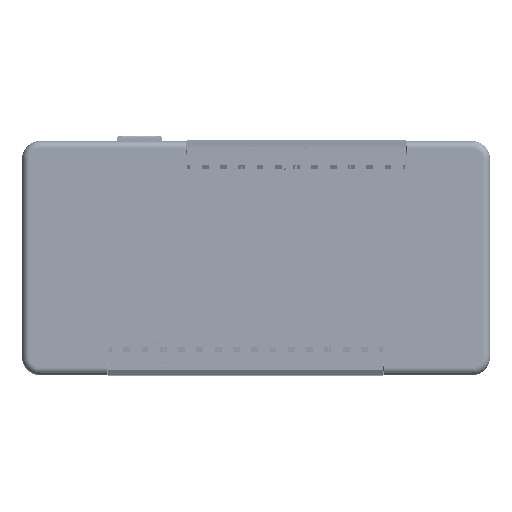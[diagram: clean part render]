
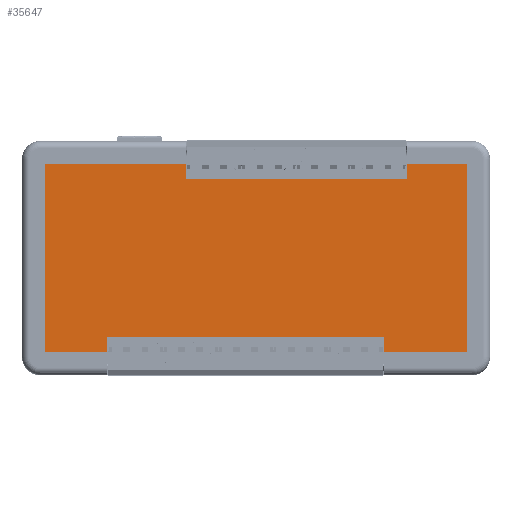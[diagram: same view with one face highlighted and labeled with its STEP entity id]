
A CAD part, top view. The second image highlights one B-rep face of the part: STEP entity #35647.
In plain terms, the highlighted planar face has unit normal (0, 0, 1) as drawn and (0, 0, -1) by its records, which use the part's own axes.
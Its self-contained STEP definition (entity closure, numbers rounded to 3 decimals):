
#133 = LINE ( 'NONE', #37919, #54100 ) ;
#535 = EDGE_CURVE ( 'NONE', #69994, #4568, #133, .T. ) ;
#1323 = ORIENTED_EDGE ( 'NONE', *, *, #103320, .T. ) ;
#1808 = LINE ( 'NONE', #28695, #87843 ) ;
#3580 = VERTEX_POINT ( 'NONE', #65130 ) ;
#4264 = EDGE_CURVE ( 'NONE', #85814, #3580, #25804, .T. ) ;
#4568 = VERTEX_POINT ( 'NONE', #14843 ) ;
#11105 = CARTESIAN_POINT ( 'NONE',  ( -19.5, -26.125, 1. ) ) ;
#12119 = CARTESIAN_POINT ( 'NONE',  ( -41.5, 0., 1. ) ) ;
#12267 = VERTEX_POINT ( 'NONE', #122172 ) ;
#14843 = CARTESIAN_POINT ( 'NONE',  ( 35.5, 22., 1. ) ) ;
#15398 = EDGE_CURVE ( 'NONE', #111932, #85814, #34248, .T. ) ;
#15662 = ORIENTED_EDGE ( 'NONE', *, *, #132121, .F. ) ;
#17731 = ORIENTED_EDGE ( 'NONE', *, *, #126778, .T. ) ;
#19176 = CARTESIAN_POINT ( 'NONE',  ( -19.5, -22., 1. ) ) ;
#20729 = PLANE ( 'NONE',  #114505 ) ;
#25804 = LINE ( 'NONE', #38117, #79854 ) ;
#26249 = ORIENTED_EDGE ( 'NONE', *, *, #113207, .T. ) ;
#28695 = CARTESIAN_POINT ( 'NONE',  ( 42., 0., 1. ) ) ;
#34248 = LINE ( 'NONE', #61038, #120259 ) ;
#34800 = VERTEX_POINT ( 'NONE', #107540 ) ;
#35647 = ADVANCED_FACE ( 'NONE', ( #82818 ), #20729, .F. ) ;
#37919 = CARTESIAN_POINT ( 'NONE',  ( 0., 22., 1. ) ) ;
#38009 = DIRECTION ( 'NONE',  ( 0., -1., 0. ) ) ;
#38117 = CARTESIAN_POINT ( 'NONE',  ( -58.625, 26.125, 1. ) ) ;
#39468 = ORIENTED_EDGE ( 'NONE', *, *, #135049, .T. ) ;
#40555 = CARTESIAN_POINT ( 'NONE',  ( 35.5, 0., 1. ) ) ;
#40724 = ORIENTED_EDGE ( 'NONE', *, *, #126977, .T. ) ;
#45550 = EDGE_CURVE ( 'NONE', #118349, #111932, #121833, .T. ) ;
#47700 = CARTESIAN_POINT ( 'NONE',  ( 0., -22., 1. ) ) ;
#49561 = VECTOR ( 'NONE', #38009, 1000. ) ;
#51440 = DIRECTION ( 'NONE',  ( 0., 1., 0. ) ) ;
#53324 = DIRECTION ( 'NONE',  ( 0., 0., 1. ) ) ;
#53964 = LINE ( 'NONE', #133434, #133110 ) ;
#54100 = VECTOR ( 'NONE', #102518, 1000. ) ;
#54460 = ORIENTED_EDGE ( 'NONE', *, *, #15398, .T. ) ;
#54569 = DIRECTION ( 'NONE',  ( 0., -1., 0. ) ) ;
#56505 = VERTEX_POINT ( 'NONE', #78701 ) ;
#60027 = VERTEX_POINT ( 'NONE', #96790 ) ;
#60659 = CARTESIAN_POINT ( 'NONE',  ( -19.5, 0., 1. ) ) ;
#61038 = CARTESIAN_POINT ( 'NONE',  ( -58.625, 26.125, 1. ) ) ;
#61851 = DIRECTION ( 'NONE',  ( -1., 0., 0. ) ) ;
#64010 = DIRECTION ( 'NONE',  ( -1., 0., 0. ) ) ;
#64597 = VECTOR ( 'NONE', #64010, 1000. ) ;
#64622 = ORIENTED_EDGE ( 'NONE', *, *, #535, .T. ) ;
#65130 = CARTESIAN_POINT ( 'NONE',  ( -41.5, 26.125, 1. ) ) ;
#66185 = LINE ( 'NONE', #127230, #69547 ) ;
#69431 = DIRECTION ( 'NONE',  ( 1., 0., 0. ) ) ;
#69547 = VECTOR ( 'NONE', #61851, 1000. ) ;
#69691 = VERTEX_POINT ( 'NONE', #19176 ) ;
#69994 = VERTEX_POINT ( 'NONE', #87557 ) ;
#70505 = LINE ( 'NONE', #47700, #95746 ) ;
#72581 = EDGE_CURVE ( 'NONE', #69691, #118349, #132065, .T. ) ;
#74352 = CARTESIAN_POINT ( 'NONE',  ( 42., -26.125, 1. ) ) ;
#76346 = VECTOR ( 'NONE', #51440, 1000. ) ;
#78094 = VECTOR ( 'NONE', #110788, 1000. ) ;
#78270 = CARTESIAN_POINT ( 'NONE',  ( -58.625, 26.125, 1. ) ) ;
#78701 = CARTESIAN_POINT ( 'NONE',  ( 58.625, 26.125, 1. ) ) ;
#79724 = LINE ( 'NONE', #40555, #76346 ) ;
#79854 = VECTOR ( 'NONE', #113500, 1000. ) ;
#79856 = LINE ( 'NONE', #12119, #137094 ) ;
#82818 = FACE_OUTER_BOUND ( 'NONE', #116180, .T. ) ;
#85814 = VERTEX_POINT ( 'NONE', #131377 ) ;
#86851 = ORIENTED_EDGE ( 'NONE', *, *, #4264, .T. ) ;
#87557 = CARTESIAN_POINT ( 'NONE',  ( -41.5, 22., 1. ) ) ;
#87843 = VECTOR ( 'NONE', #93378, 1000. ) ;
#92930 = VERTEX_POINT ( 'NONE', #74352 ) ;
#93378 = DIRECTION ( 'NONE',  ( 0., 1., 0. ) ) ;
#95746 = VECTOR ( 'NONE', #69431, 1000. ) ;
#96790 = CARTESIAN_POINT ( 'NONE',  ( 42., -22., 1. ) ) ;
#102518 = DIRECTION ( 'NONE',  ( 1., 0., 0. ) ) ;
#103320 = EDGE_CURVE ( 'NONE', #3580, #69994, #79856, .T. ) ;
#104373 = DIRECTION ( 'NONE',  ( 0., 1., 0. ) ) ;
#106093 = ORIENTED_EDGE ( 'NONE', *, *, #45550, .T. ) ;
#107047 = CARTESIAN_POINT ( 'NONE',  ( 0., 0., 1. ) ) ;
#107540 = CARTESIAN_POINT ( 'NONE',  ( 58.625, -26.125, 1. ) ) ;
#110788 = DIRECTION ( 'NONE',  ( 1., 0., 0. ) ) ;
#111932 = VERTEX_POINT ( 'NONE', #127637 ) ;
#113207 = EDGE_CURVE ( 'NONE', #92930, #60027, #1808, .T. ) ;
#113294 = ORIENTED_EDGE ( 'NONE', *, *, #72581, .T. ) ;
#113500 = DIRECTION ( 'NONE',  ( 1., 0., 0. ) ) ;
#114505 = AXIS2_PLACEMENT_3D ( 'NONE', #107047, #53324, #128636 ) ;
#116180 = EDGE_LOOP ( 'NONE', ( #15662, #113294, #106093, #54460, #86851, #1323, #64622, #40724, #17731, #139038, #39468, #26249 ) ) ;
#118349 = VERTEX_POINT ( 'NONE', #11105 ) ;
#120259 = VECTOR ( 'NONE', #104373, 1000. ) ;
#121833 = LINE ( 'NONE', #128443, #64597 ) ;
#122172 = CARTESIAN_POINT ( 'NONE',  ( 35.5, 26.125, 1. ) ) ;
#122651 = DIRECTION ( 'NONE',  ( 0., -1., 0. ) ) ;
#126778 = EDGE_CURVE ( 'NONE', #12267, #56505, #135357, .T. ) ;
#126977 = EDGE_CURVE ( 'NONE', #4568, #12267, #79724, .T. ) ;
#127230 = CARTESIAN_POINT ( 'NONE',  ( -58.625, -26.125, 1. ) ) ;
#127637 = CARTESIAN_POINT ( 'NONE',  ( -58.625, -26.125, 1. ) ) ;
#128443 = CARTESIAN_POINT ( 'NONE',  ( -58.625, -26.125, 1. ) ) ;
#128636 = DIRECTION ( 'NONE',  ( 1., 0., 0. ) ) ;
#131377 = CARTESIAN_POINT ( 'NONE',  ( -58.625, 26.125, 1. ) ) ;
#132065 = LINE ( 'NONE', #60659, #49561 ) ;
#132121 = EDGE_CURVE ( 'NONE', #69691, #60027, #70505, .T. ) ;
#133110 = VECTOR ( 'NONE', #122651, 1000. ) ;
#133434 = CARTESIAN_POINT ( 'NONE',  ( 58.625, 26.125, 1. ) ) ;
#135049 = EDGE_CURVE ( 'NONE', #34800, #92930, #66185, .T. ) ;
#135357 = LINE ( 'NONE', #78270, #78094 ) ;
#136675 = EDGE_CURVE ( 'NONE', #56505, #34800, #53964, .T. ) ;
#137094 = VECTOR ( 'NONE', #54569, 1000. ) ;
#139038 = ORIENTED_EDGE ( 'NONE', *, *, #136675, .T. ) ;
